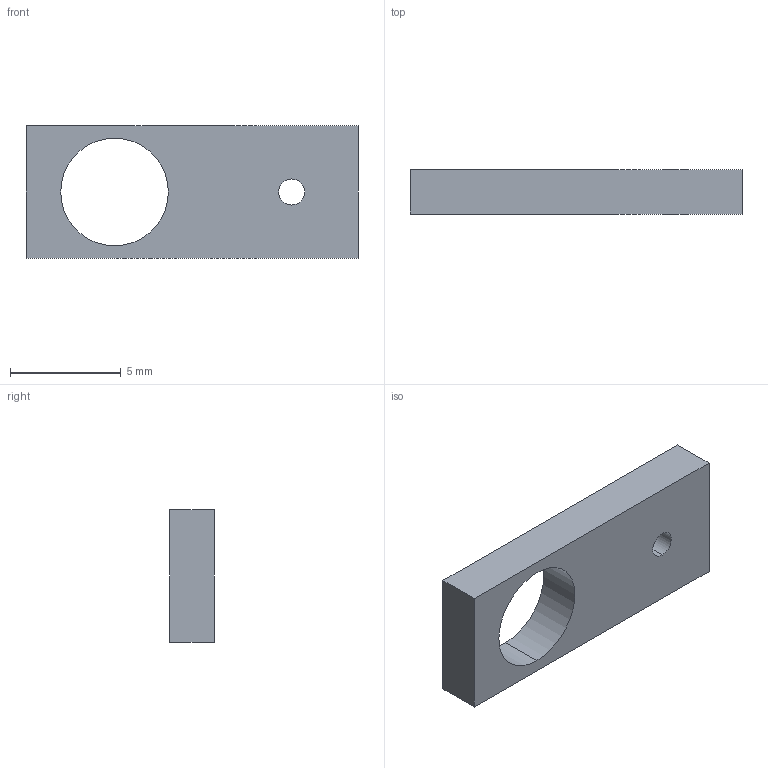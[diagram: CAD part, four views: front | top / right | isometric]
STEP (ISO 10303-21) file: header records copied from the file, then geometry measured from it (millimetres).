
FILE_DESCRIPTION (( 'STEP AP214' ), '1' );
FILE_NAME ('braco_Servo_rustico.STEP', '2026-11-19T20:05:30', ( '' ), ( '' ), 'SwSTEP 2.0', 'SolidWorks 2026', '' );
FILE_SCHEMA (( 'AUTOMOTIVE_DESIGN' ));
Length unit declared in the file: millimetre
Products named in the file (1): braco_Servo_rustico
Bounding box: 15 x 2 x 6 mm (x, y, z)
Volume: 140.7 mm3; surface area: 262.7 mm2
Topology: 1 solids, 1 shells, 10 faces, 24 edges, 16 vertices
Faces by surface type: plane 6, cylinder 4
Entity records: 327 total; most frequent: DIRECTION 54, CARTESIAN_POINT 51, ORIENTED_EDGE 48, EDGE_CURVE 24, AXIS2_PLACEMENT_3D 19, LINE 16, VECTOR 16, VERTEX_POINT 16
